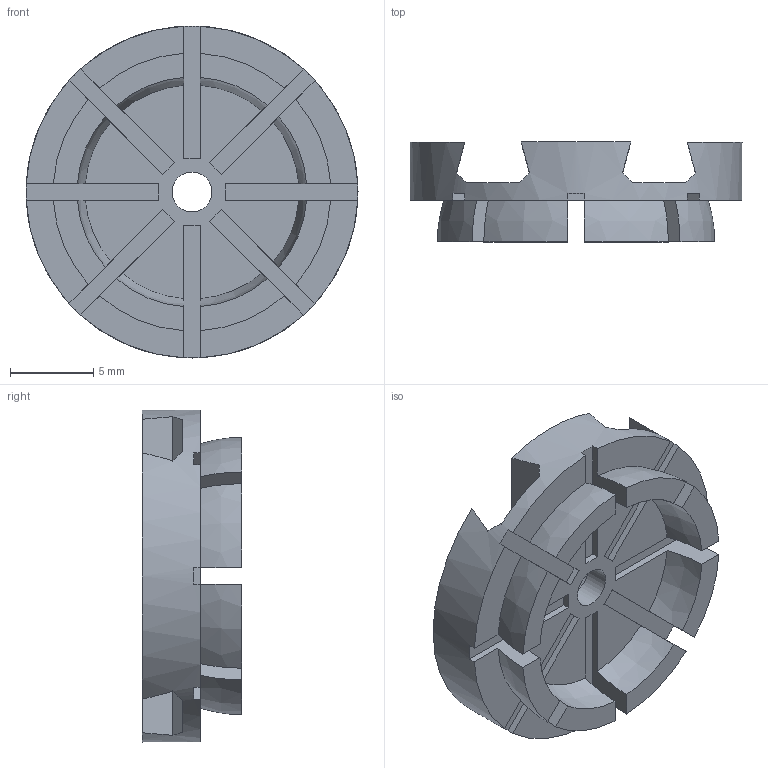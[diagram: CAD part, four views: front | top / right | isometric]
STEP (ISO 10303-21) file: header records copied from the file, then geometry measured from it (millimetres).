
FILE_DESCRIPTION(/* description */ (''),/* implementation_level */ '2;1');
FILE_NAME(/* name */ 'C:/Users/priba/Downloads/RotaryJointRoundTop.step',/* time_stamp */ '2021-09-17T16:26:58+02:00',/* author */ (''),/* organization */ (''),/* preprocessor_version */ 'ST-DEVELOPER v18.1',/* originating_system */ 'Autodesk Translation Framework v10.10.0.1391',/* authorisation */ '');
FILE_SCHEMA (('AUTOMOTIVE_DESIGN { 1 0 10303 214 3 1 1 }'));
Length unit declared in the file: millimetre
Products named in the file (2): RotaryJointRoundTop; UpperHalf
Assembly tree (1 placements, depth 2):
  RotaryJointRoundTop
    UpperHalf
Bounding box: 20 x 6 x 20 mm (x, y, z)
Volume: 845.6 mm3; surface area: 1326.2 mm2
Topology: 1 solids, 1 shells, 82 faces, 237 edges, 158 vertices
Faces by surface type: plane 63, sphere 16, cylinder 3
Full cylindrical faces by diameter (mm): 2.4 x1, 5.099 x1, 20 x1
Entity records: 2797 total; most frequent: DIRECTION 517, CARTESIAN_POINT 480, ORIENTED_EDGE 474, EDGE_CURVE 237, AXIS2_PLACEMENT_3D 195, VERTEX_POINT 158, LINE 127, VECTOR 127
